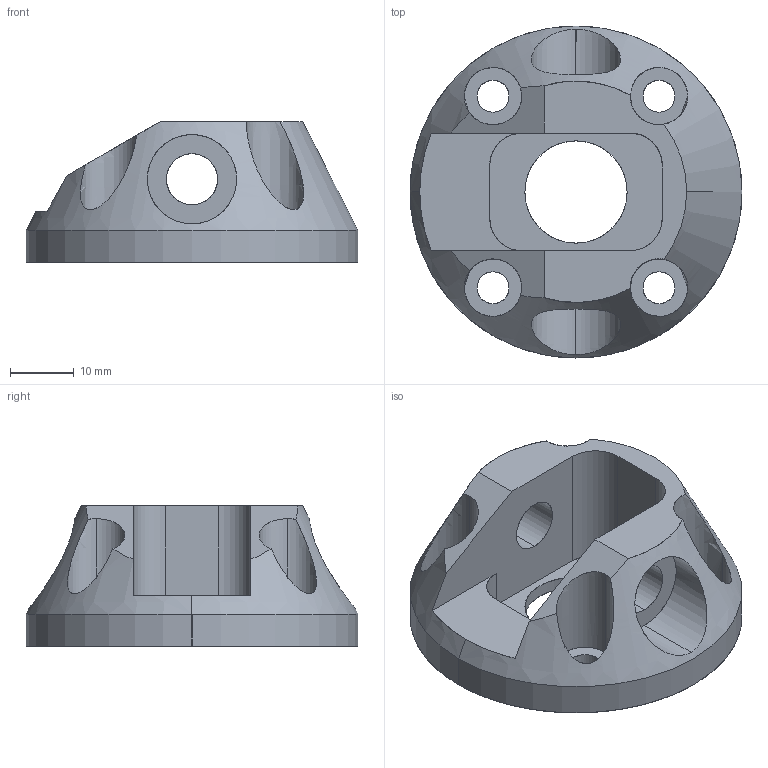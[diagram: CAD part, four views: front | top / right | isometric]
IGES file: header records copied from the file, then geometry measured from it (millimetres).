
Start section: SolidWorks IGES file using analytic representation for surfaces
Global section: file name: G:\Budini\2013\AttaccoSospensione06_M5.IGS; native system: SolidWorks 2010; preprocessor: SolidWorks 2010; author: user; date: 140516.013234; units: millimetre
Bounding box: 52 x 52 x 22 mm (x, y, z)
Surface area: 9167.7 mm2 (no closed solid volume)
Topology: 0 solids, 0 shells, 50 faces, 1394 edges, 1394 vertices
Faces by surface type: revolution 34, bspline 16
